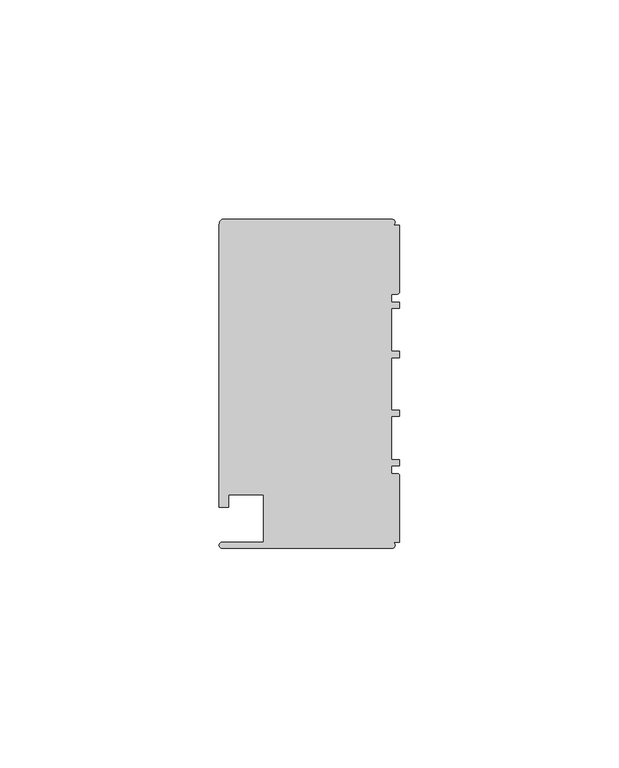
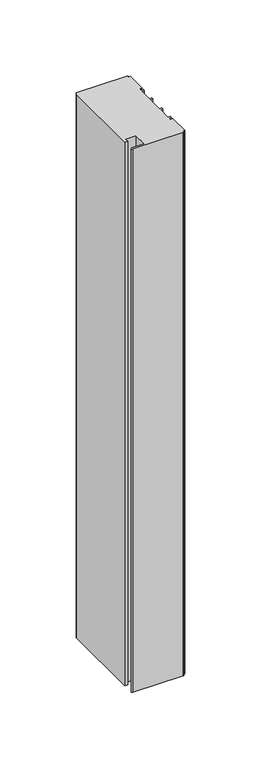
"""IFC4 building model written with IfcOpenShell, lengths in millimetres: member geometry, Прямоугольный импост : 1-AMG-1-Профиль 40Х75 Верх П."""

from ifc_helpers import new_model, si_unit, point, frame, frame_2d, origin, place, context, project, spatial, polyline, circle_curve, trimmed, segment, composite_curve, outline, extrude, source, transform, mapped, element, save


def member_577e8d6c(model_context):
    return source(origin(), model_context, "Body", "SweptSolid", [
        extrude(outline(composite_curve([segment(polyline([(-1.7, -37.5), (-40.4, -37.5)]), True, "CONTINUOUS"), segment(trimmed(circle_curve(frame_2d((-40.4, -36.8)), 0.7), [point((-40.4, -37.5))], [point((-40.4, -36.1))], False, "CARTESIAN"), True, "CONTINUOUS"), segment(polyline([(-40.4, -36.1), (-31.0, -36.1), (-31.0, -25.25), (-39.0, -25.25), (-39.0, -28.1), (-41.1, -28.1), (-41.1, 36.1)]), True, "CONTINUOUS"), segment(trimmed(circle_curve(frame_2d((-39.7541527, 36.3020763)), 1.3609334), [point((-41.1, 36.1))], [point((-40.4, 37.5))], False, "CARTESIAN"), True, "CONTINUOUS"), segment(polyline([(-40.4, 37.5), (-1.7, 37.5)]), True, "CONTINUOUS"), segment(trimmed(circle_curve(frame_2d((-1.7, 36.8)), 0.7), [point((-1.7, 37.5))], [point((-1.7, 36.1))], False, "CARTESIAN"), True, "CONTINUOUS"), segment(polyline([(-1.7, 36.1), (0.0, 36.1), (0.0, 20.95)]), True, "CONTINUOUS"), segment(trimmed(circle_curve(frame_2d((-0.5, 20.95)), 0.5), [point((0.0, 20.95))], [point((-0.5, 20.45))], False, "CARTESIAN"), True, "CONTINUOUS"), segment(polyline([(-0.5, 20.45), (-1.8, 20.45), (-1.8, 18.65), (0.0, 18.65), (0.0, 17.25), (-1.8, 17.25), (-1.8, 7.4), (0.0, 7.4), (0.0, 6.0), (-1.8, 6.0), (-1.8, -6.0), (0.0, -6.0), (0.0, -7.4), (-1.8, -7.4), (-1.8, -17.25), (0.0, -17.25), (0.0, -18.65), (-1.8, -18.65), (-1.8, -20.45), (-0.5, -20.45)]), True, "CONTINUOUS"), segment(trimmed(circle_curve(frame_2d((-0.5, -20.95)), 0.5), [point((-0.5, -20.45))], [point((0.0, -20.95))], False, "CARTESIAN"), True, "CONTINUOUS"), segment(polyline([(0.0, -20.95), (0.0, -36.1), (-1.7, -36.1)]), True, "CONTINUOUS"), segment(trimmed(circle_curve(frame_2d((-1.7, -36.8)), 0.7), [point((-1.7, -36.1))], [point((-1.7, -37.5))], False, "CARTESIAN"), True, "CONTINUOUS")], self_intersect=False)), frame((0.0, 0.0, -440.0), z_axis=(0.0, 0.0, 1.0), x_axis=(1.0, 0.0, 0.0)), (0.0, 0.0, 1.0), 440.0),
    ])


if __name__ == "__main__":
    model = new_model("IFC4")
    model_context = context("Model", 3, world=origin())
    ifc_project = project(units=[si_unit("LENGTHUNIT", "METRE", prefix="MILLI")], contexts=[model_context])
    site = spatial("IfcSite", under=ifc_project)
    building = spatial("IfcBuilding", under=site)
    placement = place(None, origin())
    member_shape = member_577e8d6c(model_context)
    element("IfcMember", 1, ObjectType="Прямоугольный импост : 1-AMG-1-Профиль 40Х75 Верх П", at=placement, inside=building, context=model_context, shape_type="MappedRepresentation", body=[
        mapped(member_shape, transform((0.0, 0.0, 0.0), x_axis=(1.0, 0.0, 0.0), y_axis=(0.0, 1.0, 0.0), z_axis=(0.0, 0.0, 1.0))),
    ])
    save(model, "model.ifc")
